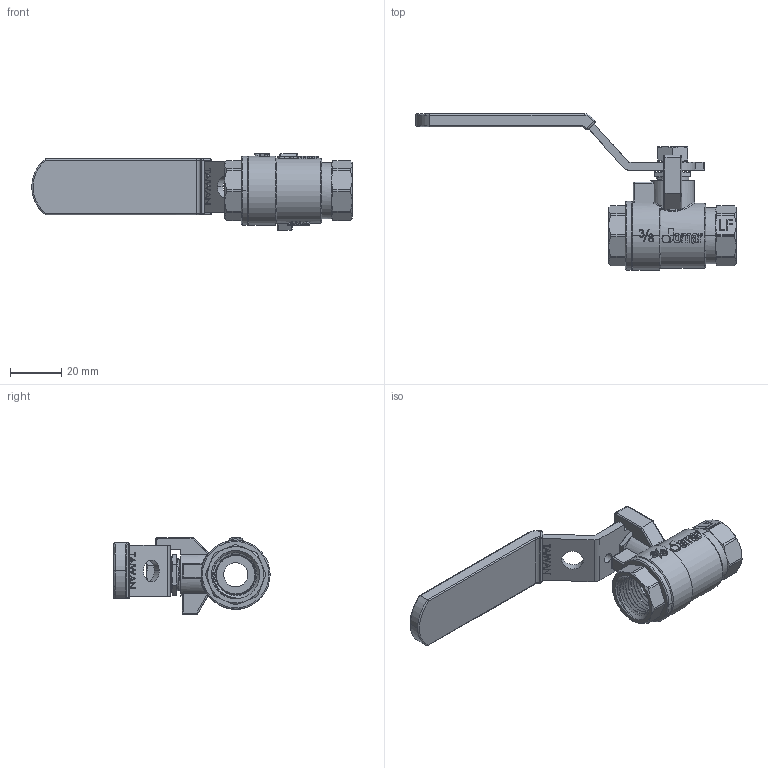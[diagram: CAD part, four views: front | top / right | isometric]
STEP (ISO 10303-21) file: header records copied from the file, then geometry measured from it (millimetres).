
FILE_DESCRIPTION (( 'STEP AP203' ), '1' );
FILE_NAME ('ABL702-無掛鎖-0.375''''JOMAR球閥體組合-無鉛無插溝-2025.STEP', '2025-06-25T06:27:52', ( '' ), ( '' ), 'SwSTEP 2.0', 'SolidWorks 2018', '' );
FILE_SCHEMA (( 'CONFIG_CONTROL_DESIGN' ));
Length unit declared in the file: millimetre
Products named in the file (13): DN15-CBL211白色膠套-T-200CSSG; BBL702A-0.375''''JOMAR球閥八角頭-無鉛無插溝; BBL702-0.375''''JOMAR球閥體-無鉛無插溝; ABL702-無掛鎖-0.375''''JOMAR球閥體組合-無鉛無插溝-2025; NBL262; EBL203B; RBL261-無鑽孔; TBL261A; CBL211; GBL211; EBL203A; DN15-CBL703-HANDLE & SLEEVE 組合(白色T膠套); EBL201
Assembly tree (13 placements, depth 3):
  ABL702-無掛鎖-0.375''''JOMAR球閥體組合-無鉛無插溝-2025
    BBL702-0.375''''JOMAR球閥體-無鉛無插溝
    EBL203A
    EBL203B
    GBL211
    RBL261-無鑽孔
    BBL702A-0.375''''JOMAR球閥八角頭-無鉛無插溝
    NBL262
    EBL201  x2
    TBL261A
    DN15-CBL703-HANDLE & SLEEVE 組合(白色T膠套)
      CBL211
      DN15-CBL211白色膠套-T-200CSSG
Bounding box: 125.5 x 61.21 x 30 mm (x, y, z)
Volume: 18997.4 mm3; surface area: 30548.9 mm2
Topology: 11 solids, 13 shells, 2269 faces, 6394 edges, 4326 vertices
Faces by surface type: plane 1175, bspline 672, cylinder 264, cone 124, torus 22, sphere 12
Entity records: 125454 total; most frequent: CARTESIAN_POINT 71418, ORIENTED_EDGE 12704, DIRECTION 7879, EDGE_CURVE 6354, VERTEX_POINT 4306, VECTOR 3677, LINE 3677, EDGE_LOOP 2467
